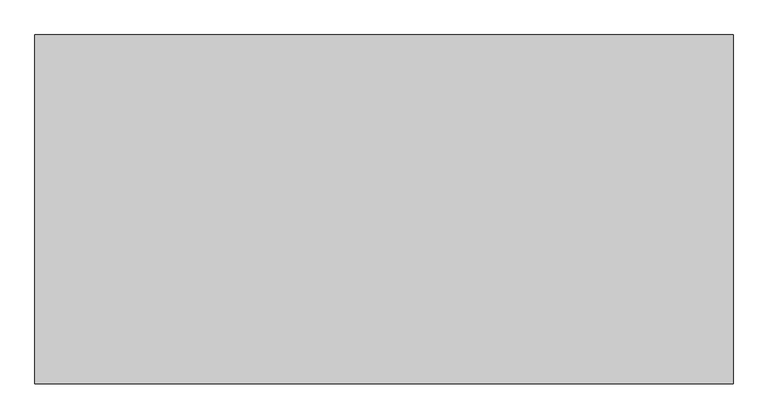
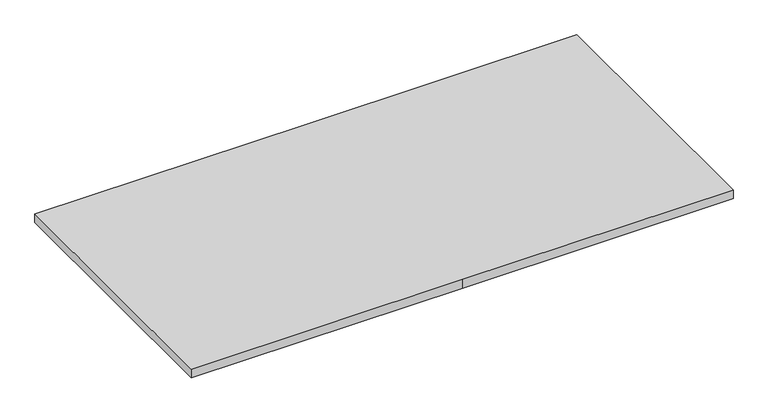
"""IFC4 building model written with IfcOpenShell, lengths in millimetres: valve geometry, Pipelife - Stormbox E- Dno skrzynki : Dno skrzynki."""

from ifc_helpers import new_model, si_unit, origin, origin_with_axes, place, context, project, spatial, polyline, outline, extrude, source, transform, mapped, element, save


def valve_7da77f28(model_context):
    return source(origin(), model_context, "Body", "SweptSolid", [
        extrude(outline(polyline([(600.0, -300.0), (0.0, -300.0), (-600.0, -300.0), (-600.0, 300.0), (0.0, 300.0), (600.0, 300.0), (600.0, -300.0)])), origin_with_axes(), (0.0, 0.0, 1.0), 20.0),
    ])


if __name__ == "__main__":
    model = new_model("IFC4")
    model_context = context("Model", 3, world=origin())
    ifc_project = project(units=[si_unit("LENGTHUNIT", "METRE", prefix="MILLI")], contexts=[model_context])
    site = spatial("IfcSite", under=ifc_project)
    building = spatial("IfcBuilding", under=site)
    placement = place(None, origin())
    valve_shape = valve_7da77f28(model_context)
    element("IfcValve", 1, ObjectType="Pipelife - Stormbox E- Dno skrzynki : Dno skrzynki", at=placement, inside=building, context=model_context, shape_type="MappedRepresentation", body=[
        mapped(valve_shape, transform((0.0, 0.0, 0.0), x_axis=(1.0, 0.0, 0.0), y_axis=(0.0, 1.0, 0.0), z_axis=(0.0, 0.0, 1.0))),
    ])
    save(model, "model.ifc")
